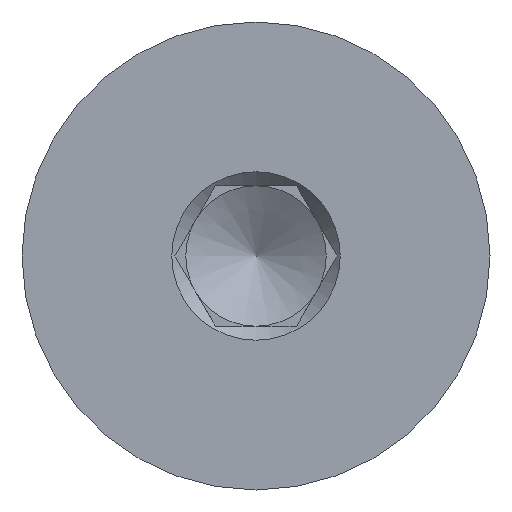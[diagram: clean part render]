
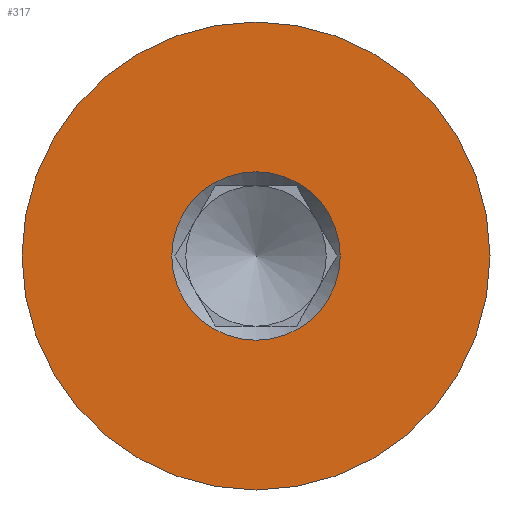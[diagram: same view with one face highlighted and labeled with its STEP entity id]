
A CAD part, left-side view. The second image highlights one B-rep face of the part: STEP entity #317.
In plain terms, the highlighted planar face has unit normal (-1, 0, 0).
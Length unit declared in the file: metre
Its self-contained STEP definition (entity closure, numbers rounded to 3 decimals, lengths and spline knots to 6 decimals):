
#24=CIRCLE('',#356,0.0009);
#25=CIRCLE('',#358,0.0025);
#139=ORIENTED_EDGE('',*,*,#186,.T.);
#140=ORIENTED_EDGE('',*,*,#187,.F.);
#186=EDGE_CURVE('',#217,#217,#24,.T.);
#187=EDGE_CURVE('',#218,#218,#25,.T.);
#217=VERTEX_POINT('',#565);
#218=VERTEX_POINT('',#568);
#250=EDGE_LOOP('',(#139));
#251=EDGE_LOOP('',(#140));
#277=FACE_BOUND('',#250,.T.);
#278=FACE_BOUND('',#251,.T.);
#300=PLANE('',#357);
#317=ADVANCED_FACE('',(#277,#278),#300,.T.);
#356=AXIS2_PLACEMENT_3D('',#564,#428,#429);
#357=AXIS2_PLACEMENT_3D('',#566,#430,#431);
#358=AXIS2_PLACEMENT_3D('',#567,#432,#433);
#428=DIRECTION('',(1.,0.,0.));
#429=DIRECTION('',(0.,1.,0.));
#430=DIRECTION('',(-1.,0.,0.));
#431=DIRECTION('',(0.,0.,1.));
#432=DIRECTION('',(1.,0.,0.));
#433=DIRECTION('',(0.,1.,0.));
#564=CARTESIAN_POINT('',(-0.029977,0.020831,-0.041201));
#565=CARTESIAN_POINT('',(-0.029977,0.021731,-0.041201));
#566=CARTESIAN_POINT('',(-0.029977,0.022081,-0.041201));
#567=CARTESIAN_POINT('',(-0.029977,0.020831,-0.041201));
#568=CARTESIAN_POINT('',(-0.029977,0.023331,-0.041201));
